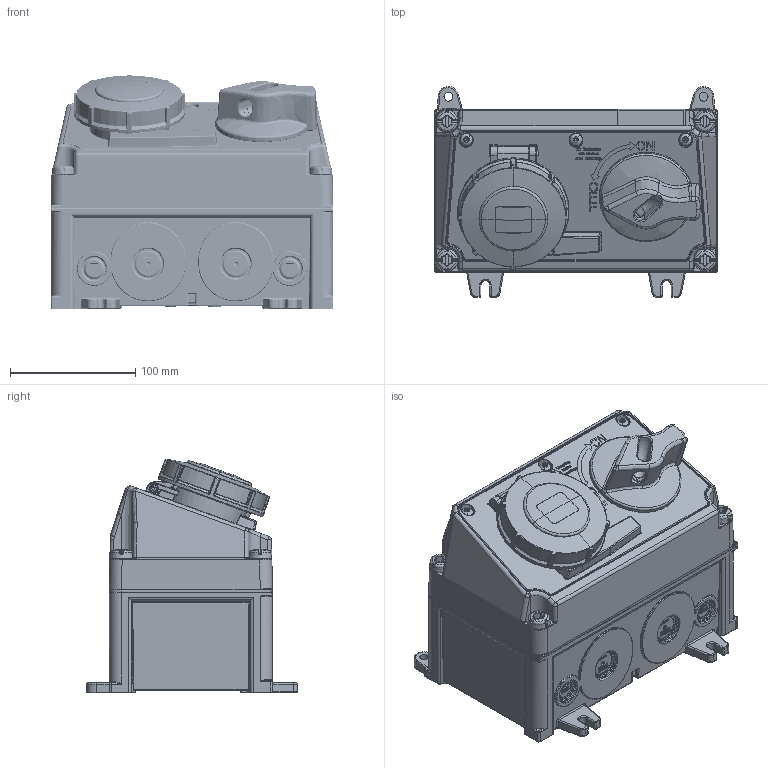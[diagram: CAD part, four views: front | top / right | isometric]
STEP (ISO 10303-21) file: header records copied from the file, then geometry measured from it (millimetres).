
FILE_DESCRIPTION((''),'2;1');
FILE_NAME('7626-0_ASM','2018-06-06T',('menccconvadm'),('MENNEKES'),'PRO/ENGINEER BY PARAMETRIC TECHNOLOGY CORPORATION, 2015440','PRO/ENGINEER BY PARAMETRIC TECHNOLOGY CORPORATION, 2015440','');
FILE_SCHEMA(('AUTOMOTIVE_DESIGN { 1 0 10303 214 1 1 1 1 }'));
Products named in the file (22): 1-4_SW_O_GRAU; PLATZHALTER_GKS2; PLATZHALTER_GKS3; PLATZHALTER_GKS4; PLATZHALTER_GKS5; PLATZHALTER_GKS6; PLATZHALTER_GKS7; PLATZHALTER_GKS8; PLATZHALTER_GKS9; PLATZHALTER_GKS10; PLATZHALTER_GKS11; PLATZHALTER_GKS12; PLATZHALTER_GKS13; PLATZHALTER_GKS14; PLATZHALTER_GKS15; PLATZHALTER_GKS16; PLATZHALTER_GKS17; PLATZHALTER_GKS18; PLATZHALTER_GKS19; PLATZHALTER_GKS20; MP_DUO_16_5_67_ROT_GRAU; 7626-0_ASM
Assembly tree (21 placements, depth 2):
  7626-0_ASM
    1-4_SW_O_GRAU
    PLATZHALTER_GKS2
    PLATZHALTER_GKS3
    PLATZHALTER_GKS4
    PLATZHALTER_GKS5
    PLATZHALTER_GKS6
    PLATZHALTER_GKS7
    PLATZHALTER_GKS8
    PLATZHALTER_GKS9
    PLATZHALTER_GKS10
    PLATZHALTER_GKS11
    PLATZHALTER_GKS12
    PLATZHALTER_GKS13
    PLATZHALTER_GKS14
    PLATZHALTER_GKS15
    PLATZHALTER_GKS16
    PLATZHALTER_GKS17
    PLATZHALTER_GKS18
    PLATZHALTER_GKS19
    PLATZHALTER_GKS20
    MP_DUO_16_5_67_ROT_GRAU
Bounding box: 225 x 168.2 x 186.25 mm (x, y, z)
Volume: 2981823.6 mm3; surface area: 352204.5 mm2
Topology: 2 solids, 2 shells, 6183 faces, 15892 edges, 9904 vertices
Faces by surface type: plane 3269, cylinder 1074, bspline 951, torus 504, cone 190, sphere 183, extrusion 12
Entity records: 302438 total; most frequent: CARTESIAN_POINT 94989, ORIENTED_EDGE 31752, DIRECTION 26981, EDGE_CURVE 15876, PRESENTATION_STYLE_ASSIGNMENT 11965, VERTEX_POINT 9902, STYLED_ITEM 9874, VECTOR 9769
